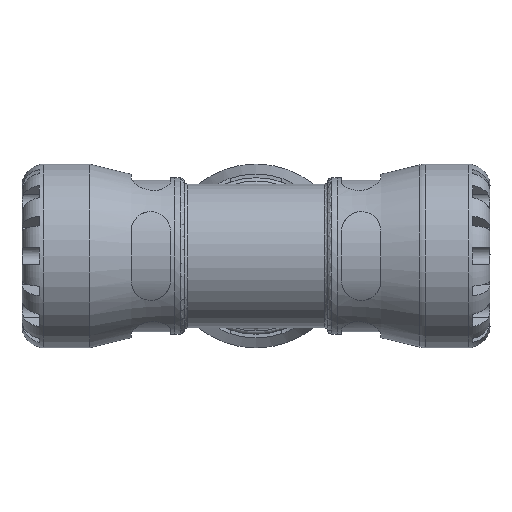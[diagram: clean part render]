
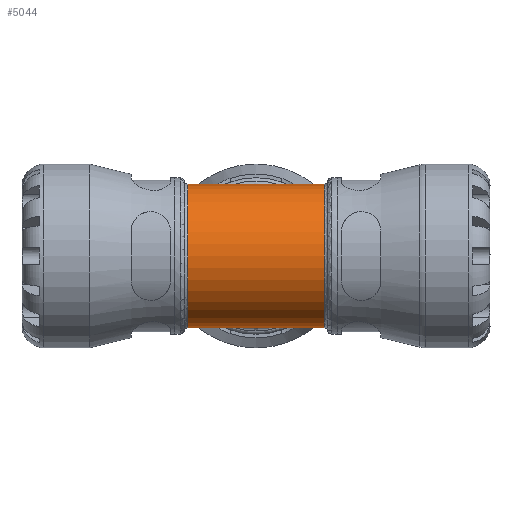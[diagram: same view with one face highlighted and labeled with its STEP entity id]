
A CAD part, front view. The second image highlights one B-rep face of the part: STEP entity #5044.
In plain terms, the highlighted cylindrical face has radius 40.17 mm (diameter 80.34 mm), a partial arc.
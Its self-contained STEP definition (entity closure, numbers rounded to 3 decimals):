
#945=CYLINDRICAL_SURFACE('',#5512,40.17);
#1444=FACE_OUTER_BOUND('',#1768,.T.);
#1768=EDGE_LOOP('',(#4264,#4265,#4266,#4267,#4268,#4269));
#1913=ELLIPSE('',#5168,57.542,40.17);
#1916=ELLIPSE('',#5173,57.542,40.17);
#1918=ELLIPSE('',#5177,57.542,40.17);
#1919=ELLIPSE('',#5179,57.542,40.17);
#1935=CIRCLE('',#5190,40.17);
#2025=CIRCLE('',#5386,40.17);
#2186=VERTEX_POINT('',#7147);
#2187=VERTEX_POINT('',#7149);
#2190=VERTEX_POINT('',#7262);
#2194=VERTEX_POINT('',#7449);
#2196=VERTEX_POINT('',#7452);
#2198=VERTEX_POINT('',#7486);
#2656=EDGE_CURVE('',#2186,#2187,#1913,.T.);
#2663=EDGE_CURVE('',#2187,#2190,#1916,.T.);
#2669=EDGE_CURVE('',#2196,#2194,#1918,.T.);
#2671=EDGE_CURVE('',#2198,#2196,#1919,.T.);
#2687=EDGE_CURVE('',#2194,#2186,#1935,.T.);
#2939=EDGE_CURVE('',#2190,#2198,#2025,.T.);
#4264=ORIENTED_EDGE('',*,*,#2656,.F.);
#4265=ORIENTED_EDGE('',*,*,#2687,.F.);
#4266=ORIENTED_EDGE('',*,*,#2669,.F.);
#4267=ORIENTED_EDGE('',*,*,#2671,.F.);
#4268=ORIENTED_EDGE('',*,*,#2939,.F.);
#4269=ORIENTED_EDGE('',*,*,#2663,.F.);
#5044=ADVANCED_FACE('',(#1444),#945,.T.);
#5168=AXIS2_PLACEMENT_3D('',#7150,#5737,#5738);
#5173=AXIS2_PLACEMENT_3D('',#7266,#5747,#5748);
#5177=AXIS2_PLACEMENT_3D('',#7454,#5755,#5756);
#5179=AXIS2_PLACEMENT_3D('',#7488,#5759,#5760);
#5190=AXIS2_PLACEMENT_3D('',#7883,#5781,#5782);
#5386=AXIS2_PLACEMENT_3D('',#9370,#6261,#6262);
#5512=AXIS2_PLACEMENT_3D('',#10355,#6577,#6578);
#5737=DIRECTION('center_axis',(-0.698,0.716,0.));
#5738=DIRECTION('ref_axis',(0.716,0.698,0.));
#5747=DIRECTION('center_axis',(0.698,0.716,0.));
#5748=DIRECTION('ref_axis',(-0.716,0.698,0.));
#5755=DIRECTION('center_axis',(-0.698,0.716,0.));
#5756=DIRECTION('ref_axis',(0.716,0.698,0.));
#5759=DIRECTION('center_axis',(0.698,0.716,0.));
#5760=DIRECTION('ref_axis',(-0.716,0.698,0.));
#5781=DIRECTION('center_axis',(1.,0.,0.));
#5782=DIRECTION('ref_axis',(0.,1.,0.));
#6261=DIRECTION('center_axis',(-1.,0.,0.));
#6262=DIRECTION('ref_axis',(0.,1.,0.));
#6577=DIRECTION('center_axis',(1.,0.,0.));
#6578=DIRECTION('ref_axis',(0.,1.,0.));
#7147=CARTESIAN_POINT('',(38.142,37.189,-15.186));
#7149=CARTESIAN_POINT('',(0.,0.,-40.17));
#7150=CARTESIAN_POINT('Origin',(0.,0.,0.));
#7262=CARTESIAN_POINT('',(-38.142,37.189,-15.186));
#7266=CARTESIAN_POINT('Origin',(0.,0.,0.));
#7449=CARTESIAN_POINT('',(38.142,37.189,15.186));
#7452=CARTESIAN_POINT('',(0.,0.,40.17));
#7454=CARTESIAN_POINT('Origin',(0.,0.,0.));
#7486=CARTESIAN_POINT('',(-38.142,37.189,15.186));
#7488=CARTESIAN_POINT('Origin',(0.,0.,0.));
#7883=CARTESIAN_POINT('Origin',(38.142,0.,0.));
#9370=CARTESIAN_POINT('Origin',(-38.142,0.,0.));
#10355=CARTESIAN_POINT('Origin',(20.085,0.,0.));
